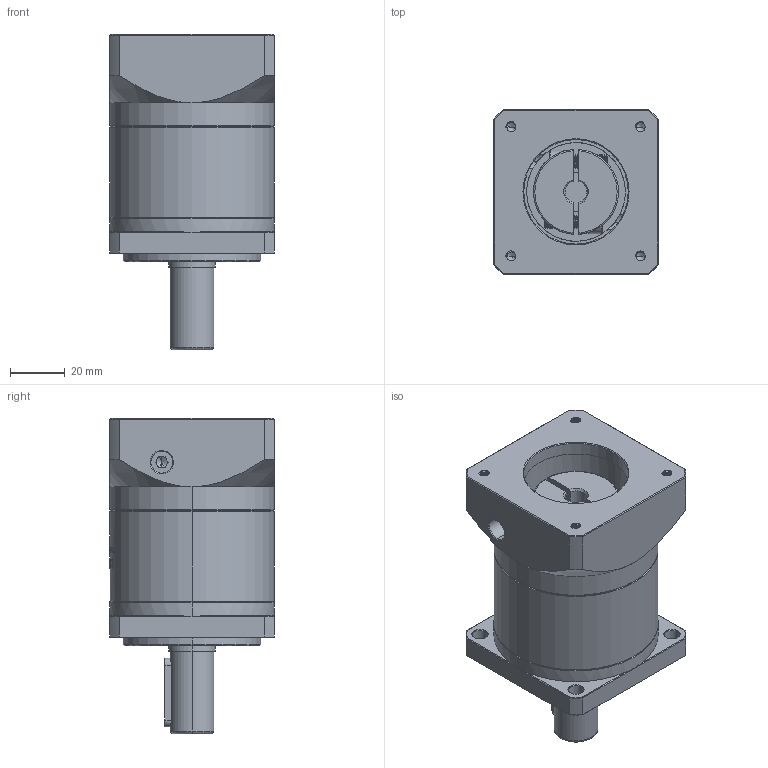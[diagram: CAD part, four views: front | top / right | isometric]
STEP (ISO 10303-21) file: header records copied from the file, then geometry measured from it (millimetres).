
FILE_DESCRIPTION (( 'STEP AP214' ), '1' );
FILE_NAME ('ZF60-D16-L1-8-38.1-47.14X47.14-M4.STEP', '2022-04-17T11:28:51', ( '' ), ( 'Microsoft' ), 'SwSTEP 2.0', 'SolidWorks 2016', '' );
FILE_SCHEMA (( 'AUTOMOTIVE_DESIGN' ));
Length unit declared in the file: millimetre
Products named in the file (1): ZF60-D16-L1-8-38.1-47.14X47.14-M4
Bounding box: 60 x 60 x 115 mm (x, y, z)
Volume: 227755.9 mm3; surface area: 43901.3 mm2
Topology: 6 solids, 6 shells, 1617 faces, 4371 edges, 2830 vertices
Faces by surface type: plane 744, cylinder 327, bspline 299, cone 229, torus 18
Entity records: 88886 total; most frequent: CARTESIAN_POINT 34122, ORIENTED_EDGE 8714, DIRECTION 6396, EDGE_CURVE 4357, VERTEX_POINT 2830, LINE 2216, VECTOR 2216, AXIS2_PLACEMENT_3D 2090
